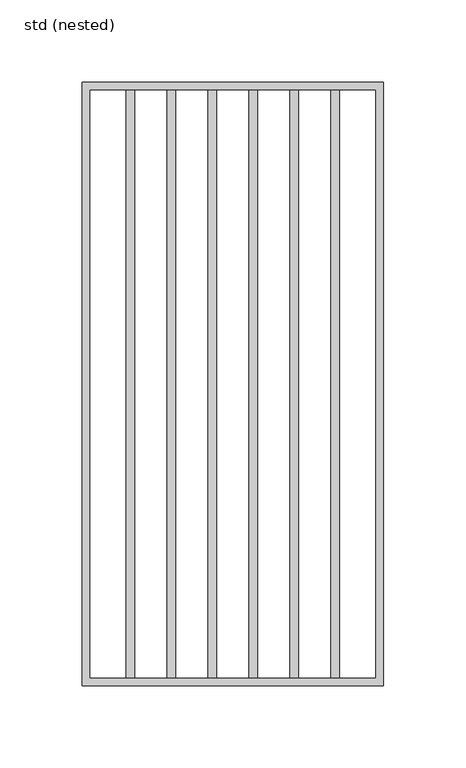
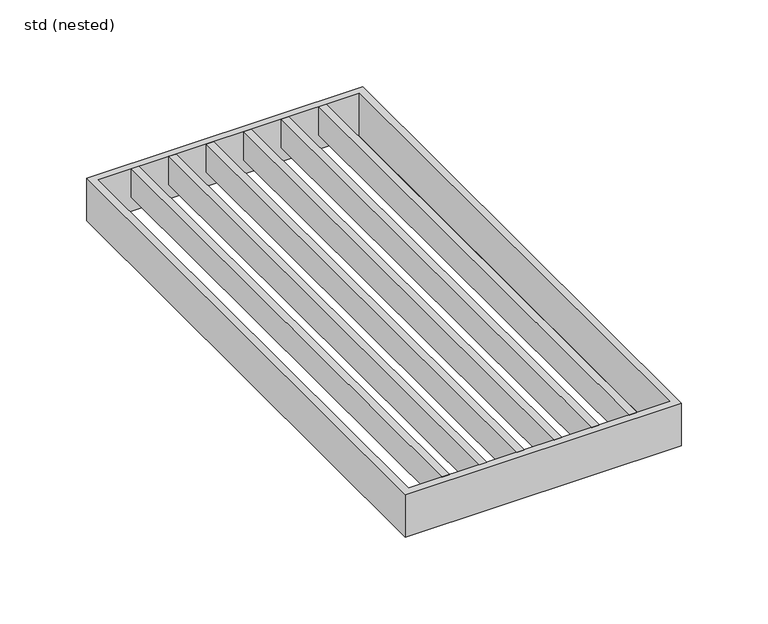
"""IFC4 building model written with IfcOpenShell, lengths in millimetres: sanitary terminal geometry, ZZZ_do not use_PF_ST_UN_grating for high capacity gully_ACO : std (nested)."""

from ifc_helpers import new_model, si_unit, frame, origin, place, context, project, spatial, polyline, outline, extrude, source, transform, mapped, element, save


def std_nested_f74d5a0c(model_context):
    return source(origin(), model_context, "Body", "SweptSolid", [
        extrude(outline(polyline([(-65.0, 179.0), (-60.0, 179.0), (-60.0, -179.0), (-65.0, -179.0), (-65.0, 179.0)])), frame((0.0, 0.0, -20.0), z_axis=(0.0, 0.0, 1.0), x_axis=(1.0, 0.0, 0.0)), (0.0, 0.0, 1.0), 20.0),
        extrude(outline(polyline([(-40.0, 179.0), (-35.0, 179.0), (-35.0, -179.0), (-40.0, -179.0), (-40.0, 179.0)])), frame((0.0, 0.0, -20.0), z_axis=(0.0, 0.0, 1.0), x_axis=(1.0, 0.0, 0.0)), (0.0, 0.0, 1.0), 20.0),
        extrude(outline(polyline([(65.0, 179.0), (65.0, -179.0), (60.0, -179.0), (60.0, 179.0), (65.0, 179.0)])), frame((0.0, 0.0, -20.0), z_axis=(0.0, 0.0, 1.0), x_axis=(1.0, 0.0, 0.0)), (0.0, 0.0, 1.0), 20.0),
        extrude(outline(polyline([(40.0, 179.0), (40.0, -179.0), (35.0, -179.0), (35.0, 179.0), (40.0, 179.0)])), frame((0.0, 0.0, -20.0), z_axis=(0.0, 0.0, 1.0), x_axis=(1.0, 0.0, 0.0)), (0.0, 0.0, 1.0), 20.0),
        extrude(outline(polyline([(-15.0, 179.0), (-10.0, 179.0), (-10.0, -179.0), (-15.0, -179.0), (-15.0, 179.0)])), frame((0.0, 0.0, -20.0), z_axis=(0.0, 0.0, 1.0), x_axis=(1.0, 0.0, 0.0)), (0.0, 0.0, 1.0), 20.0),
        extrude(outline(polyline([(15.0, 179.0), (15.0, -179.0), (10.0, -179.0), (10.0, 179.0), (15.0, 179.0)])), frame((0.0, 0.0, -20.0), z_axis=(0.0, 0.0, 1.0), x_axis=(1.0, 0.0, 0.0)), (0.0, 0.0, 1.0), 20.0),
        extrude(outline(polyline([(92.0, 184.0), (92.0, -184.0), (-92.0, -184.0), (-92.0, 184.0), (92.0, 184.0)]), holes=[polyline([(87.0, 179.0), (-87.0, 179.0), (-87.0, -179.0), (87.0, -179.0), (87.0, 179.0)])]), frame((0.0, 0.0, -30.0), z_axis=(0.0, 0.0, 1.0), x_axis=(1.0, 0.0, 0.0)), (0.0, 0.0, 1.0), 30.0),
    ])


if __name__ == "__main__":
    model = new_model("IFC4")
    model_context = context("Model", 3, world=origin())
    ifc_project = project(units=[si_unit("LENGTHUNIT", "METRE", prefix="MILLI")], contexts=[model_context])
    site = spatial("IfcSite", under=ifc_project)
    building = spatial("IfcBuilding", under=site)
    placement = place(None, origin())
    std_nested_shape = std_nested_f74d5a0c(model_context)
    element("IfcSanitaryTerminal", 1, ObjectType="ZZZ_do not use_PF_ST_UN_grating for high capacity gully_ACO : std (nested)", at=placement, inside=building, context=model_context, shape_type="MappedRepresentation", body=[
        mapped(std_nested_shape, transform((0.0, 0.0, 0.0), x_axis=(1.0, 0.0, 0.0), y_axis=(0.0, 1.0, 0.0), z_axis=(0.0, 0.0, 1.0))),
    ])
    save(model, "model.ifc")
